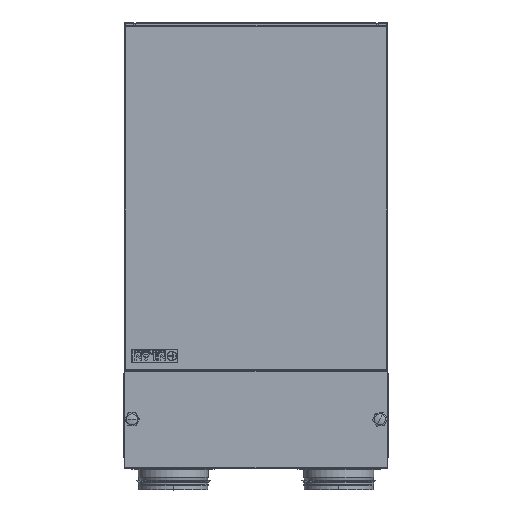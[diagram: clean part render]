
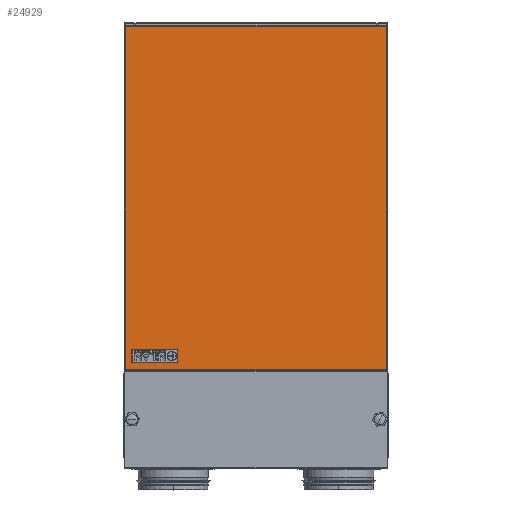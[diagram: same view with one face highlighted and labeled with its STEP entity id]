
A CAD part, top view. The second image highlights one B-rep face of the part: STEP entity #24929.
In plain terms, the highlighted planar face has unit normal (0, 0, 1) as drawn and (0, -1, 0) by its records, which use the part's own axes.
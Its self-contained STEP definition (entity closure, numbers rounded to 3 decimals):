
#4693 = LINE ( 'NONE', #27173, #18513 ) ;
#4975 = DIRECTION ( 'NONE',  ( 1., 0., 0. ) ) ;
#7753 = CARTESIAN_POINT ( 'NONE',  ( -389.81, -0.9, -297.75 ) ) ;
#9875 = CARTESIAN_POINT ( 'NONE',  ( -389.811, -0.9, 297.75 ) ) ;
#9899 = EDGE_CURVE ( 'NONE', #34973, #46615, #56292, .T. ) ;
#11508 = DIRECTION ( 'NONE',  ( 0., 0., -1. ) ) ;
#12760 = FACE_OUTER_BOUND ( 'NONE', #13863, .T. ) ;
#12835 = VECTOR ( 'NONE', #46495, 1000. ) ;
#13863 = EDGE_LOOP ( 'NONE', ( #50319, #46668, #44022, #30873 ) ) ;
#18513 = VECTOR ( 'NONE', #4975, 1000. ) ;
#20430 = DIRECTION ( 'NONE',  ( 0., 0., 1. ) ) ;
#20821 = VECTOR ( 'NONE', #11508, 1000. ) ;
#23338 = DIRECTION ( 'NONE',  ( 0., 0., -1. ) ) ;
#23482 = AXIS2_PLACEMENT_3D ( 'NONE', #53299, #40895, #23338 ) ;
#24929 = ADVANCED_FACE ( 'NONE', ( #12760 ), #48969, .T. ) ;
#27173 = CARTESIAN_POINT ( 'NONE',  ( -391.169, -0.9, -297.75 ) ) ;
#28718 = VECTOR ( 'NONE', #20430, 1000. ) ;
#28940 = CARTESIAN_POINT ( 'NONE',  ( 391.169, -0.9, 297.75 ) ) ;
#29096 = LINE ( 'NONE', #46648, #28718 ) ;
#30873 = ORIENTED_EDGE ( 'NONE', *, *, #38791, .T. ) ;
#31897 = EDGE_CURVE ( 'NONE', #46615, #41406, #54251, .T. ) ;
#33430 = CARTESIAN_POINT ( 'NONE',  ( -389.81, -0.9, 299.109 ) ) ;
#34973 = VERTEX_POINT ( 'NONE', #50871 ) ;
#38791 = EDGE_CURVE ( 'NONE', #41406, #42856, #4693, .T. ) ;
#40895 = DIRECTION ( 'NONE',  ( 0., -1., 0. ) ) ;
#41372 = EDGE_CURVE ( 'NONE', #42856, #34973, #29096, .T. ) ;
#41406 = VERTEX_POINT ( 'NONE', #7753 ) ;
#42856 = VERTEX_POINT ( 'NONE', #50422 ) ;
#44022 = ORIENTED_EDGE ( 'NONE', *, *, #31897, .T. ) ;
#46495 = DIRECTION ( 'NONE',  ( -1., 0., 0. ) ) ;
#46615 = VERTEX_POINT ( 'NONE', #9875 ) ;
#46648 = CARTESIAN_POINT ( 'NONE',  ( 389.81, -0.9, -299.109 ) ) ;
#46668 = ORIENTED_EDGE ( 'NONE', *, *, #9899, .T. ) ;
#48969 = PLANE ( 'NONE',  #23482 ) ;
#50319 = ORIENTED_EDGE ( 'NONE', *, *, #41372, .T. ) ;
#50422 = CARTESIAN_POINT ( 'NONE',  ( 389.811, -0.9, -297.75 ) ) ;
#50871 = CARTESIAN_POINT ( 'NONE',  ( 389.81, -0.9, 297.75 ) ) ;
#53299 = CARTESIAN_POINT ( 'NONE',  ( 0., -0.9, 0. ) ) ;
#54251 = LINE ( 'NONE', #33430, #20821 ) ;
#56292 = LINE ( 'NONE', #28940, #12835 ) ;
